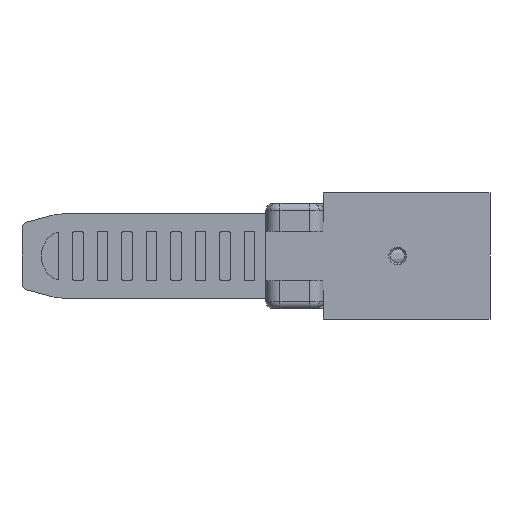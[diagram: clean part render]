
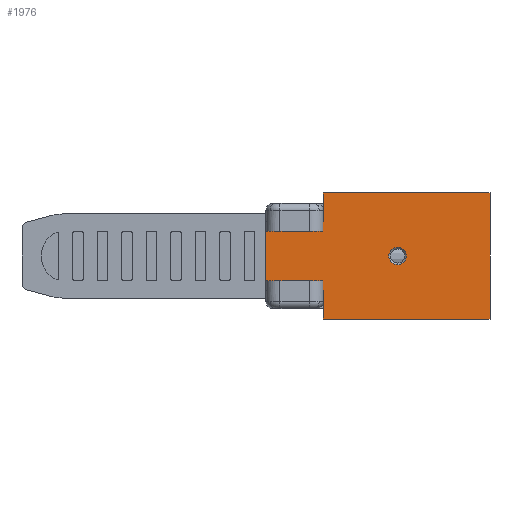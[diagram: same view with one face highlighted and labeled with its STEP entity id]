
A CAD part, front view. The second image highlights one B-rep face of the part: STEP entity #1976.
In plain terms, the highlighted planar face has unit normal (0, -1, 0).
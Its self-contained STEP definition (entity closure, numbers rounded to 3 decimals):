
#77 = VERTEX_POINT ( 'NONE', #591 ) ;
#87 = LINE ( 'NONE', #15461, #12533 ) ;
#185 = DIRECTION ( 'NONE',  ( 0., -1., 0. ) ) ;
#335 = VERTEX_POINT ( 'NONE', #13591 ) ;
#480 = CARTESIAN_POINT ( 'NONE',  ( -9.5, -5., -9. ) ) ;
#503 = VERTEX_POINT ( 'NONE', #6225 ) ;
#576 = AXIS2_PLACEMENT_3D ( 'NONE', #2346, #10773, #3536 ) ;
#591 = CARTESIAN_POINT ( 'NONE',  ( 9.3, -5., -1.25 ) ) ;
#645 = DIRECTION ( 'NONE',  ( 0., 1., 0. ) ) ;
#771 = VERTEX_POINT ( 'NONE', #2526 ) ;
#928 = DIRECTION ( 'NONE',  ( 1., 0., 0. ) ) ;
#1128 = CARTESIAN_POINT ( 'NONE',  ( -9.5, -5., -4.95 ) ) ;
#1621 = ORIENTED_EDGE ( 'NONE', *, *, #13152, .F. ) ;
#1826 = VERTEX_POINT ( 'NONE', #2621 ) ;
#1976 = ADVANCED_FACE ( 'NONE', ( #14493, #11236 ), #8984, .F. ) ;
#2238 = CARTESIAN_POINT ( 'NONE',  ( -1.3, -5., 9. ) ) ;
#2308 = DIRECTION ( 'NONE',  ( -1., 0., 0. ) ) ;
#2346 = CARTESIAN_POINT ( 'NONE',  ( 9.3, -5., 0. ) ) ;
#2462 = CARTESIAN_POINT ( 'NONE',  ( -1.3, -5., 4.95 ) ) ;
#2526 = CARTESIAN_POINT ( 'NONE',  ( -9.5, -5., 4.95 ) ) ;
#2594 = ORIENTED_EDGE ( 'NONE', *, *, #3311, .T. ) ;
#2609 = DIRECTION ( 'NONE',  ( 0., 0., -1. ) ) ;
#2621 = CARTESIAN_POINT ( 'NONE',  ( 22.5, -5., -9. ) ) ;
#2700 = ORIENTED_EDGE ( 'NONE', *, *, #2708, .T. ) ;
#2708 = EDGE_CURVE ( 'NONE', #6887, #7993, #4953, .T. ) ;
#2714 = VECTOR ( 'NONE', #12911, 1000. ) ;
#2920 = EDGE_CURVE ( 'NONE', #771, #7993, #13014, .T. ) ;
#3311 = EDGE_CURVE ( 'NONE', #12126, #3986, #4660, .T. ) ;
#3463 = LINE ( 'NONE', #480, #12726 ) ;
#3536 = DIRECTION ( 'NONE',  ( 0., 0., -1. ) ) ;
#3743 = ORIENTED_EDGE ( 'NONE', *, *, #13030, .F. ) ;
#3904 = LINE ( 'NONE', #1128, #9568 ) ;
#3986 = VERTEX_POINT ( 'NONE', #8443 ) ;
#4017 = ORIENTED_EDGE ( 'NONE', *, *, #11819, .F. ) ;
#4660 = LINE ( 'NONE', #2238, #13948 ) ;
#4953 = LINE ( 'NONE', #8944, #10617 ) ;
#5076 = CARTESIAN_POINT ( 'NONE',  ( -1.3, -5., 9. ) ) ;
#5702 = DIRECTION ( 'NONE',  ( 0., 0., -1. ) ) ;
#6225 = CARTESIAN_POINT ( 'NONE',  ( 9.3, -5., 1.25 ) ) ;
#6598 = ORIENTED_EDGE ( 'NONE', *, *, #2920, .F. ) ;
#6611 = AXIS2_PLACEMENT_3D ( 'NONE', #7350, #185, #8572 ) ;
#6723 = LINE ( 'NONE', #12272, #9552 ) ;
#6887 = VERTEX_POINT ( 'NONE', #5076 ) ;
#7350 = CARTESIAN_POINT ( 'NONE',  ( 9.3, -5., 0. ) ) ;
#7522 = ORIENTED_EDGE ( 'NONE', *, *, #11013, .T. ) ;
#7831 = CARTESIAN_POINT ( 'NONE',  ( -9.5, -5., 9. ) ) ;
#7993 = VERTEX_POINT ( 'NONE', #2462 ) ;
#8171 = CIRCLE ( 'NONE', #576, 1.25 ) ;
#8362 = CARTESIAN_POINT ( 'NONE',  ( 22.5, -5., 9. ) ) ;
#8443 = CARTESIAN_POINT ( 'NONE',  ( -1.3, -5., -9. ) ) ;
#8572 = DIRECTION ( 'NONE',  ( 0., 0., -1. ) ) ;
#8857 = DIRECTION ( 'NONE',  ( 1., 0., 0. ) ) ;
#8944 = CARTESIAN_POINT ( 'NONE',  ( -1.3, -5., 9. ) ) ;
#8984 = PLANE ( 'NONE',  #11283 ) ;
#9028 = DIRECTION ( 'NONE',  ( 0., 0., 1. ) ) ;
#9118 = LINE ( 'NONE', #11687, #2714 ) ;
#9552 = VECTOR ( 'NONE', #2609, 1000. ) ;
#9568 = VECTOR ( 'NONE', #2308, 1000. ) ;
#10148 = DIRECTION ( 'NONE',  ( 0., 0., -1. ) ) ;
#10226 = VERTEX_POINT ( 'NONE', #8362 ) ;
#10391 = ORIENTED_EDGE ( 'NONE', *, *, #14392, .T. ) ;
#10617 = VECTOR ( 'NONE', #10148, 1000. ) ;
#10773 = DIRECTION ( 'NONE',  ( 0., -1., 0. ) ) ;
#11013 = EDGE_CURVE ( 'NONE', #771, #335, #87, .T. ) ;
#11236 = FACE_OUTER_BOUND ( 'NONE', #12170, .T. ) ;
#11283 = AXIS2_PLACEMENT_3D ( 'NONE', #7831, #645, #9028 ) ;
#11687 = CARTESIAN_POINT ( 'NONE',  ( -9.5, -5., 9. ) ) ;
#11730 = EDGE_CURVE ( 'NONE', #12126, #335, #3904, .T. ) ;
#11819 = EDGE_CURVE ( 'NONE', #10226, #1826, #6723, .T. ) ;
#11875 = DIRECTION ( 'NONE',  ( 0., 0., -1. ) ) ;
#12126 = VERTEX_POINT ( 'NONE', #15232 ) ;
#12170 = EDGE_LOOP ( 'NONE', ( #15019, #2594, #10391, #4017, #3743, #2700, #6598, #7522 ) ) ;
#12272 = CARTESIAN_POINT ( 'NONE',  ( 22.5, -5., 9. ) ) ;
#12533 = VECTOR ( 'NONE', #5702, 1000. ) ;
#12636 = VECTOR ( 'NONE', #928, 1000. ) ;
#12726 = VECTOR ( 'NONE', #8857, 1000. ) ;
#12911 = DIRECTION ( 'NONE',  ( 1., 0., 0. ) ) ;
#12991 = CARTESIAN_POINT ( 'NONE',  ( -9.5, -5., 4.95 ) ) ;
#13014 = LINE ( 'NONE', #12991, #12636 ) ;
#13030 = EDGE_CURVE ( 'NONE', #6887, #10226, #9118, .T. ) ;
#13152 = EDGE_CURVE ( 'NONE', #503, #77, #8171, .T. ) ;
#13226 = CIRCLE ( 'NONE', #6611, 1.25 ) ;
#13591 = CARTESIAN_POINT ( 'NONE',  ( -9.5, -5., -4.95 ) ) ;
#13948 = VECTOR ( 'NONE', #11875, 1000. ) ;
#14392 = EDGE_CURVE ( 'NONE', #3986, #1826, #3463, .T. ) ;
#14493 = FACE_BOUND ( 'NONE', #14920, .T. ) ;
#14920 = EDGE_LOOP ( 'NONE', ( #15111, #1621 ) ) ;
#15019 = ORIENTED_EDGE ( 'NONE', *, *, #11730, .F. ) ;
#15111 = ORIENTED_EDGE ( 'NONE', *, *, #15441, .F. ) ;
#15232 = CARTESIAN_POINT ( 'NONE',  ( -1.3, -5., -4.95 ) ) ;
#15441 = EDGE_CURVE ( 'NONE', #77, #503, #13226, .T. ) ;
#15461 = CARTESIAN_POINT ( 'NONE',  ( -9.5, -5., 9. ) ) ;
